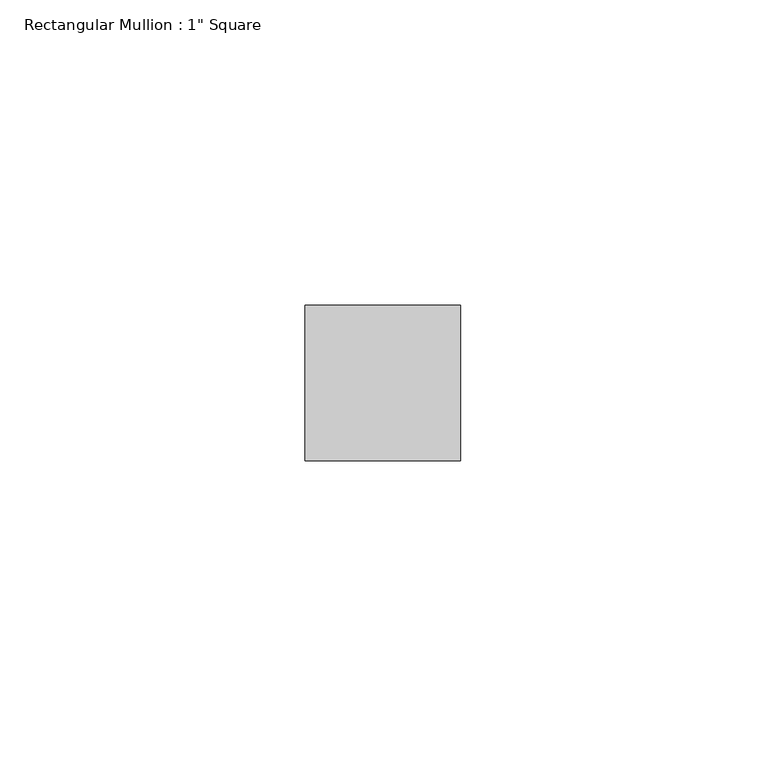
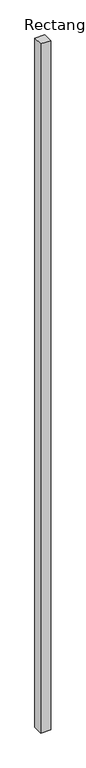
"""IFC4 building model written with IfcOpenShell, lengths in millimetres: member geometry."""

from ifc_helpers import new_model, si_unit, frame, origin, place, context, project, spatial, polyline, outline, extrude, source, transform, mapped, element, save


def member_b55583c4(model_context):
    return source(origin(), model_context, "Body", "SweptSolid", [
        extrude(outline(polyline([(12.7, 12.7), (12.7, -12.7), (-12.7, -12.7), (-12.7, 12.7), (12.7, 12.7)])), frame((0.0, 0.0, -1856.5389279), z_axis=(0.0, 0.0, 1.0), x_axis=(1.0, 0.0, 0.0)), (0.0, 0.0, 1.0), 1856.5389279),
    ])


if __name__ == "__main__":
    model = new_model("IFC4")
    model_context = context("Model", 3, world=origin())
    ifc_project = project(units=[si_unit("LENGTHUNIT", "METRE", prefix="MILLI")], contexts=[model_context])
    site = spatial("IfcSite", under=ifc_project)
    building = spatial("IfcBuilding", under=site)
    placement = place(None, origin())
    member_shape = member_b55583c4(model_context)
    element("IfcMember", 1, ObjectType="Rectangular Mullion : 1\" Square", at=placement, inside=building, context=model_context, shape_type="MappedRepresentation", body=[
        mapped(member_shape, transform((0.0, 0.0, 0.0), x_axis=(1.0, 0.0, 0.0), y_axis=(0.0, 1.0, 0.0), z_axis=(0.0, 0.0, 1.0))),
    ])
    save(model, "model.ifc")
